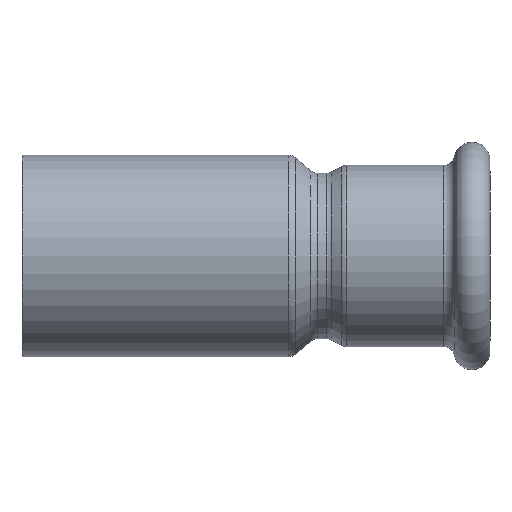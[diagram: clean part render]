
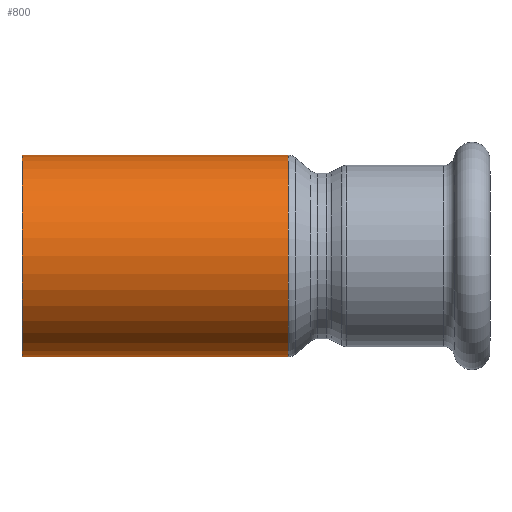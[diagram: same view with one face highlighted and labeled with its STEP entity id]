
A CAD part, front view. The second image highlights one B-rep face of the part: STEP entity #800.
In plain terms, the highlighted cylindrical face has radius 14 mm (diameter 28 mm), a partial arc.
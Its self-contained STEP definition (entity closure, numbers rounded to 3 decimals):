
#2 = CARTESIAN_POINT ( 'NONE',  ( -19.488, 0., 14. ) ) ;
#4 = CARTESIAN_POINT ( 'NONE',  ( -19.488, 0., -14. ) ) ;
#13 = FACE_OUTER_BOUND ( 'NONE', #373, .T. ) ;
#55 = VERTEX_POINT ( 'NONE', #280 ) ;
#68 = VECTOR ( 'NONE', #516, 1000. ) ;
#88 = LINE ( 'NONE', #558, #161 ) ;
#115 = AXIS2_PLACEMENT_3D ( 'NONE', #691, #320, #1067 ) ;
#145 = LINE ( 'NONE', #234, #68 ) ;
#161 = VECTOR ( 'NONE', #1216, 1000. ) ;
#182 = CIRCLE ( 'NONE', #1069, 14. ) ;
#195 = AXIS2_PLACEMENT_3D ( 'NONE', #862, #668, #221 ) ;
#221 = DIRECTION ( 'NONE',  ( 0., 0., 1. ) ) ;
#234 = CARTESIAN_POINT ( 'NONE',  ( -53.513, 0., 14. ) ) ;
#244 = DIRECTION ( 'NONE',  ( 0., 0., 1. ) ) ;
#280 = CARTESIAN_POINT ( 'NONE',  ( 17.512, 0., 14. ) ) ;
#320 = DIRECTION ( 'NONE',  ( -1., 0., 0. ) ) ;
#373 = EDGE_LOOP ( 'NONE', ( #962, #700, #432, #510 ) ) ;
#432 = ORIENTED_EDGE ( 'NONE', *, *, #1207, .T. ) ;
#447 = CARTESIAN_POINT ( 'NONE',  ( 17.512, 0., -14. ) ) ;
#510 = ORIENTED_EDGE ( 'NONE', *, *, #932, .F. ) ;
#516 = DIRECTION ( 'NONE',  ( -1., 0., 0. ) ) ;
#526 = DIRECTION ( 'NONE',  ( -1., 0., 0. ) ) ;
#558 = CARTESIAN_POINT ( 'NONE',  ( -53.513, 0., -14. ) ) ;
#634 = EDGE_CURVE ( 'NONE', #702, #653, #88, .T. ) ;
#653 = VERTEX_POINT ( 'NONE', #4 ) ;
#668 = DIRECTION ( 'NONE',  ( -1., 0., 0. ) ) ;
#675 = CARTESIAN_POINT ( 'NONE',  ( -19.488, 0., 0. ) ) ;
#682 = VERTEX_POINT ( 'NONE', #2 ) ;
#691 = CARTESIAN_POINT ( 'NONE',  ( 17.512, 0., 0. ) ) ;
#700 = ORIENTED_EDGE ( 'NONE', *, *, #906, .T. ) ;
#702 = VERTEX_POINT ( 'NONE', #447 ) ;
#760 = CIRCLE ( 'NONE', #115, 14. ) ;
#800 = ADVANCED_FACE ( 'NONE', ( #13 ), #876, .T. ) ;
#862 = CARTESIAN_POINT ( 'NONE',  ( -53.513, 0., 0. ) ) ;
#876 = CYLINDRICAL_SURFACE ( 'NONE', #195, 14. ) ;
#906 = EDGE_CURVE ( 'NONE', #702, #55, #760, .T. ) ;
#932 = EDGE_CURVE ( 'NONE', #653, #682, #182, .T. ) ;
#962 = ORIENTED_EDGE ( 'NONE', *, *, #634, .F. ) ;
#1067 = DIRECTION ( 'NONE',  ( 0., 0., -1. ) ) ;
#1069 = AXIS2_PLACEMENT_3D ( 'NONE', #675, #526, #244 ) ;
#1207 = EDGE_CURVE ( 'NONE', #55, #682, #145, .T. ) ;
#1216 = DIRECTION ( 'NONE',  ( -1., 0., 0. ) ) ;
